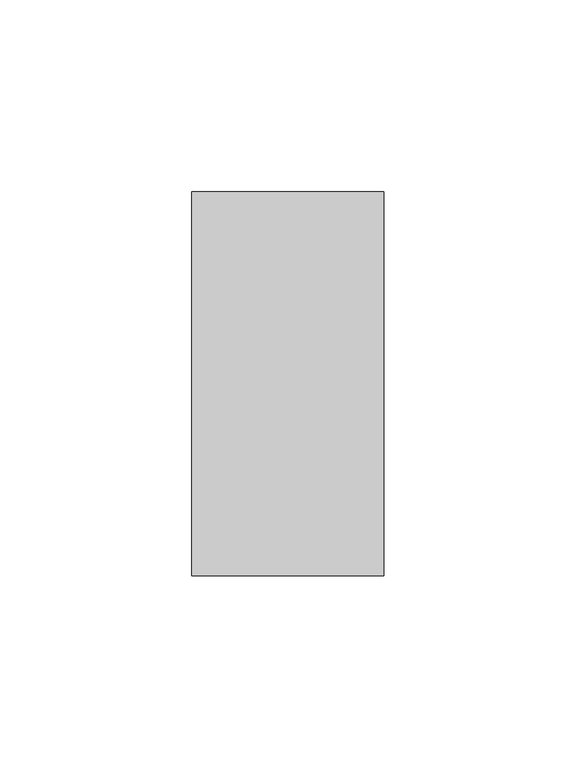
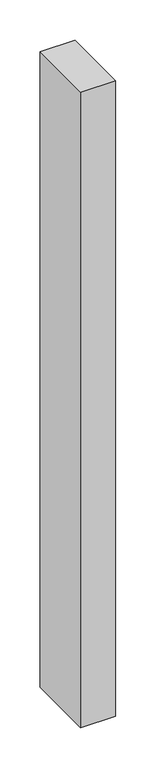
"""IFC4 building model written with IfcOpenShell, lengths in millimetres: member geometry, Прямоугольный импост : 50х100."""

from ifc_helpers import new_model, si_unit, frame, origin, place, context, project, spatial, polyline, outline, extrude, source, transform, mapped, element, save


def member_1360d4d5(model_context):
    return source(origin(), model_context, "Body", "SweptSolid", [
        extrude(outline(polyline([(0.0, 50.0), (0.0, -50.0), (-50.0, -50.0), (-50.0, 50.0), (0.0, 50.0)])), frame((0.0, 0.0, -960.0), z_axis=(0.0, 0.0, 1.0), x_axis=(1.0, 0.0, 0.0)), (0.0, 0.0, 1.0), 960.0),
    ])


if __name__ == "__main__":
    model = new_model("IFC4")
    model_context = context("Model", 3, world=origin())
    ifc_project = project(units=[si_unit("LENGTHUNIT", "METRE", prefix="MILLI")], contexts=[model_context])
    site = spatial("IfcSite", under=ifc_project)
    building = spatial("IfcBuilding", under=site)
    placement = place(None, origin())
    member_shape = member_1360d4d5(model_context)
    element("IfcMember", 1, ObjectType="Прямоугольный импост : 50х100", at=placement, inside=building, context=model_context, shape_type="MappedRepresentation", body=[
        mapped(member_shape, transform((0.0, 0.0, 0.0), x_axis=(1.0, 0.0, 0.0), y_axis=(0.0, 1.0, 0.0), z_axis=(0.0, 0.0, 1.0))),
    ])
    save(model, "model.ifc")
